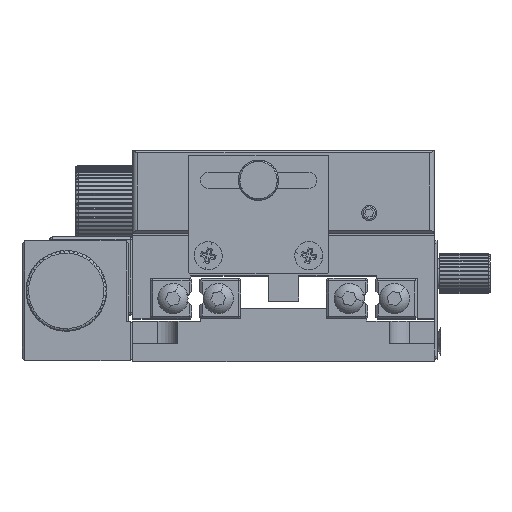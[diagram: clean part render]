
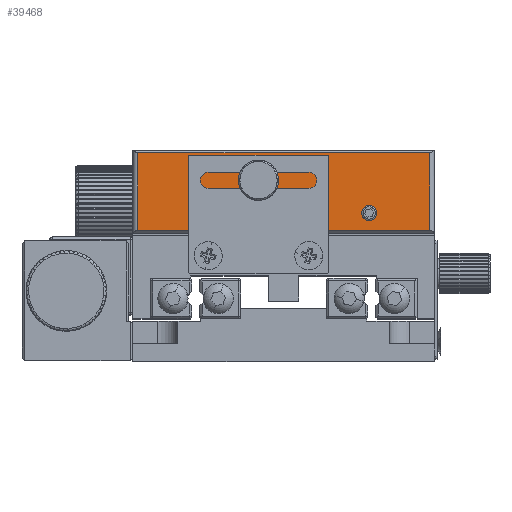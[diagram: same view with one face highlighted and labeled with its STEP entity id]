
A CAD part, top view. The second image highlights one B-rep face of the part: STEP entity #39468.
In plain terms, the highlighted planar face has unit normal (0, 0, 1) as drawn and (1, 0, 0) by its records, which use the part's own axes.
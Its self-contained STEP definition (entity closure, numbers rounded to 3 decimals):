
#9 = EDGE_LOOP ( 'NONE', ( #7857, #7849, #7850, #7842 ) ) ;
#23 = EDGE_LOOP ( 'NONE', ( #7773, #7861 ) ) ;
#55 = EDGE_LOOP ( 'NONE', ( #7836, #7873 ) ) ;
#1156 = EDGE_LOOP ( 'NONE', ( #7868, #7794 ) ) ;
#1181 = EDGE_LOOP ( 'NONE', ( #7847, #7752 ) ) ;
#5247 = EDGE_CURVE ( 'NONE', #8842, #8844, #12731, .T. ) ;
#5259 = EDGE_CURVE ( 'NONE', #8960, #8898, #12741, .T. ) ;
#5274 = EDGE_CURVE ( 'NONE', #8889, #8835, #12733, .T. ) ;
#5278 = EDGE_CURVE ( 'NONE', #9128, #9083, #12752, .T. ) ;
#5280 = EDGE_CURVE ( 'NONE', #9091, #9159, #12709, .T. ) ;
#5281 = EDGE_CURVE ( 'NONE', #9159, #9128, #12734, .T. ) ;
#5310 = EDGE_CURVE ( 'NONE', #9083, #9091, #12768, .T. ) ;
#5313 = EDGE_CURVE ( 'NONE', #8846, #8877, #12820, .T. ) ;
#5836 = AXIS2_PLACEMENT_3D ( 'NONE', #11251, #11276, #11296 ) ;
#5879 = AXIS2_PLACEMENT_3D ( 'NONE', #11252, #11230, #11255 ) ;
#5892 = AXIS2_PLACEMENT_3D ( 'NONE', #11206, #11201, #11213 ) ;
#5926 = AXIS2_PLACEMENT_3D ( 'NONE', #11360, #11350, #11382 ) ;
#6206 = AXIS2_PLACEMENT_3D ( 'NONE', #15113, #15081, #15084 ) ;
#6210 = AXIS2_PLACEMENT_3D ( 'NONE', #15305, #15313, #15286 ) ;
#6224 = AXIS2_PLACEMENT_3D ( 'NONE', #15350, #15331, #15333 ) ;
#6231 = AXIS2_PLACEMENT_3D ( 'NONE', #15396, #15364, #15395 ) ;
#6467 = EDGE_CURVE ( 'NONE', #8844, #8842, #13805, .T. ) ;
#6538 = EDGE_CURVE ( 'NONE', #8835, #8889, #15919, .T. ) ;
#6548 = EDGE_CURVE ( 'NONE', #8877, #8846, #15916, .T. ) ;
#6567 = EDGE_CURVE ( 'NONE', #8898, #8960, #15983, .T. ) ;
#7752 = ORIENTED_EDGE ( 'NONE', *, *, #6467, .F. ) ;
#7773 = ORIENTED_EDGE ( 'NONE', *, *, #5274, .F. ) ;
#7794 = ORIENTED_EDGE ( 'NONE', *, *, #6548, .F. ) ;
#7836 = ORIENTED_EDGE ( 'NONE', *, *, #5259, .F. ) ;
#7842 = ORIENTED_EDGE ( 'NONE', *, *, #5280, .T. ) ;
#7847 = ORIENTED_EDGE ( 'NONE', *, *, #5247, .F. ) ;
#7849 = ORIENTED_EDGE ( 'NONE', *, *, #5278, .T. ) ;
#7850 = ORIENTED_EDGE ( 'NONE', *, *, #5310, .T. ) ;
#7857 = ORIENTED_EDGE ( 'NONE', *, *, #5281, .T. ) ;
#7861 = ORIENTED_EDGE ( 'NONE', *, *, #6538, .F. ) ;
#7868 = ORIENTED_EDGE ( 'NONE', *, *, #5313, .F. ) ;
#7873 = ORIENTED_EDGE ( 'NONE', *, *, #6567, .F. ) ;
#8835 = VERTEX_POINT ( 'NONE', #20612 ) ;
#8842 = VERTEX_POINT ( 'NONE', #20595 ) ;
#8844 = VERTEX_POINT ( 'NONE', #20607 ) ;
#8846 = VERTEX_POINT ( 'NONE', #20598 ) ;
#8877 = VERTEX_POINT ( 'NONE', #20593 ) ;
#8889 = VERTEX_POINT ( 'NONE', #20658 ) ;
#8898 = VERTEX_POINT ( 'NONE', #20642 ) ;
#8960 = VERTEX_POINT ( 'NONE', #20739 ) ;
#9083 = VERTEX_POINT ( 'NONE', #20814 ) ;
#9091 = VERTEX_POINT ( 'NONE', #20822 ) ;
#9128 = VERTEX_POINT ( 'NONE', #20854 ) ;
#9159 = VERTEX_POINT ( 'NONE', #19637 ) ;
#11201 = DIRECTION ( 'NONE',  ( 1., 0., 0. ) ) ;
#11206 = CARTESIAN_POINT ( 'NONE',  ( 30., 2.25, 5. ) ) ;
#11213 = DIRECTION ( 'NONE',  ( 0., 0., -1. ) ) ;
#11230 = DIRECTION ( 'NONE',  ( 1., 0., 0. ) ) ;
#11251 = CARTESIAN_POINT ( 'NONE',  ( 30., -4.25, 0. ) ) ;
#11252 = CARTESIAN_POINT ( 'NONE',  ( 30., -4.25, -17. ) ) ;
#11255 = DIRECTION ( 'NONE',  ( 0., 0., -1. ) ) ;
#11263 = CARTESIAN_POINT ( 'NONE',  ( 30., -7.75, 30. ) ) ;
#11271 = DIRECTION ( 'NONE',  ( 0., 0., -1. ) ) ;
#11272 = CARTESIAN_POINT ( 'NONE',  ( 30., 7.75, 29. ) ) ;
#11276 = DIRECTION ( 'NONE',  ( 1., 0., 0. ) ) ;
#11289 = DIRECTION ( 'NONE',  ( 0., 1., 0. ) ) ;
#11296 = DIRECTION ( 'NONE',  ( 0., 0., -1. ) ) ;
#11297 = DIRECTION ( 'NONE',  ( 0., 0., 1. ) ) ;
#11299 = CARTESIAN_POINT ( 'NONE',  ( 30., 0., -29. ) ) ;
#11347 = DIRECTION ( 'NONE',  ( 0., -1., 0. ) ) ;
#11350 = DIRECTION ( 'NONE',  ( 1., 0., 0. ) ) ;
#11360 = CARTESIAN_POINT ( 'NONE',  ( 30., -4.25, 17. ) ) ;
#11378 = CARTESIAN_POINT ( 'NONE',  ( 30., -8.25, 29. ) ) ;
#11382 = DIRECTION ( 'NONE',  ( 0., 0., -1. ) ) ;
#12709 = LINE ( 'NONE', #11263, #12755 ) ;
#12725 = VECTOR ( 'NONE', #11289, 1000. ) ;
#12731 = CIRCLE ( 'NONE', #5892, 1.5 ) ;
#12733 = CIRCLE ( 'NONE', #5836, 1.5 ) ;
#12734 = LINE ( 'NONE', #11299, #12725 ) ;
#12741 = CIRCLE ( 'NONE', #5879, 1.5 ) ;
#12751 = VECTOR ( 'NONE', #11297, 1000. ) ;
#12752 = LINE ( 'NONE', #11272, #12751 ) ;
#12755 = VECTOR ( 'NONE', #11271, 1000. ) ;
#12768 = LINE ( 'NONE', #11378, #12825 ) ;
#12820 = CIRCLE ( 'NONE', #5926, 1.5 ) ;
#12825 = VECTOR ( 'NONE', #11347, 1000. ) ;
#13805 = CIRCLE ( 'NONE', #6206, 1.5 ) ;
#15081 = DIRECTION ( 'NONE',  ( 1., 0., 0. ) ) ;
#15084 = DIRECTION ( 'NONE',  ( 0., 0., -1. ) ) ;
#15113 = CARTESIAN_POINT ( 'NONE',  ( 30., 2.25, 5. ) ) ;
#15286 = DIRECTION ( 'NONE',  ( 0., 0., -1. ) ) ;
#15305 = CARTESIAN_POINT ( 'NONE',  ( 30., -4.25, 0. ) ) ;
#15313 = DIRECTION ( 'NONE',  ( 1., 0., 0. ) ) ;
#15331 = DIRECTION ( 'NONE',  ( 1., 0., 0. ) ) ;
#15333 = DIRECTION ( 'NONE',  ( 0., 0., -1. ) ) ;
#15350 = CARTESIAN_POINT ( 'NONE',  ( 30., -4.25, 17. ) ) ;
#15364 = DIRECTION ( 'NONE',  ( 1., 0., 0. ) ) ;
#15395 = DIRECTION ( 'NONE',  ( 0., 0., -1. ) ) ;
#15396 = CARTESIAN_POINT ( 'NONE',  ( 30., -4.25, -17. ) ) ;
#15916 = CIRCLE ( 'NONE', #6224, 1.5 ) ;
#15919 = CIRCLE ( 'NONE', #6210, 1.5 ) ;
#15983 = CIRCLE ( 'NONE', #6231, 1.5 ) ;
#18890 = AXIS2_PLACEMENT_3D ( 'NONE', #32330, #32342, #32324 ) ;
#19637 = CARTESIAN_POINT ( 'NONE',  ( 30., -7.75, -29. ) ) ;
#20593 = CARTESIAN_POINT ( 'NONE',  ( 30., -4.25, 18.5 ) ) ;
#20595 = CARTESIAN_POINT ( 'NONE',  ( 30., 2.25, 3.5 ) ) ;
#20598 = CARTESIAN_POINT ( 'NONE',  ( 30., -4.25, 15.5 ) ) ;
#20607 = CARTESIAN_POINT ( 'NONE',  ( 30., 2.25, 6.5 ) ) ;
#20612 = CARTESIAN_POINT ( 'NONE',  ( 30., -4.25, 1.5 ) ) ;
#20642 = CARTESIAN_POINT ( 'NONE',  ( 30., -4.25, -15.5 ) ) ;
#20658 = CARTESIAN_POINT ( 'NONE',  ( 30., -4.25, -1.5 ) ) ;
#20739 = CARTESIAN_POINT ( 'NONE',  ( 30., -4.25, -18.5 ) ) ;
#20814 = CARTESIAN_POINT ( 'NONE',  ( 30., 7.75, 29. ) ) ;
#20822 = CARTESIAN_POINT ( 'NONE',  ( 30., -7.75, 29. ) ) ;
#20854 = CARTESIAN_POINT ( 'NONE',  ( 30., 7.75, -29. ) ) ;
#29879 = FACE_OUTER_BOUND ( 'NONE', #9, .T. ) ;
#29886 = FACE_BOUND ( 'NONE', #23, .T. ) ;
#29897 = FACE_BOUND ( 'NONE', #1156, .T. ) ;
#29905 = FACE_BOUND ( 'NONE', #55, .T. ) ;
#29923 = FACE_BOUND ( 'NONE', #1181, .T. ) ;
#32324 = DIRECTION ( 'NONE',  ( 0., 0., 1. ) ) ;
#32330 = CARTESIAN_POINT ( 'NONE',  ( 30., 0., 30. ) ) ;
#32342 = DIRECTION ( 'NONE',  ( -1., 0., 0. ) ) ;
#32343 = PLANE ( 'NONE',  #18890 ) ;
#39468 = ADVANCED_FACE ( 'NONE', ( #29923, #29897, #29886, #29905, #29879 ), #32343, .F. ) ;
